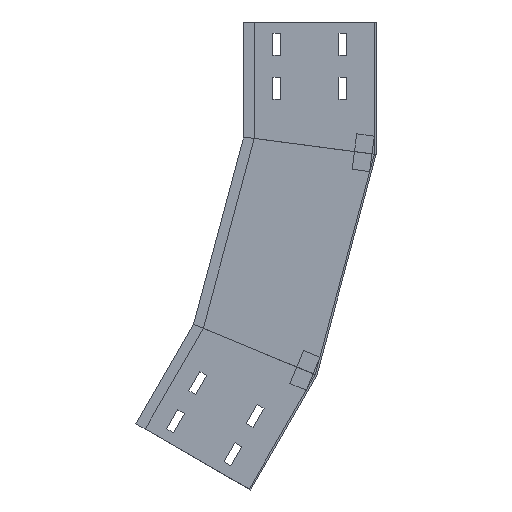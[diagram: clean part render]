
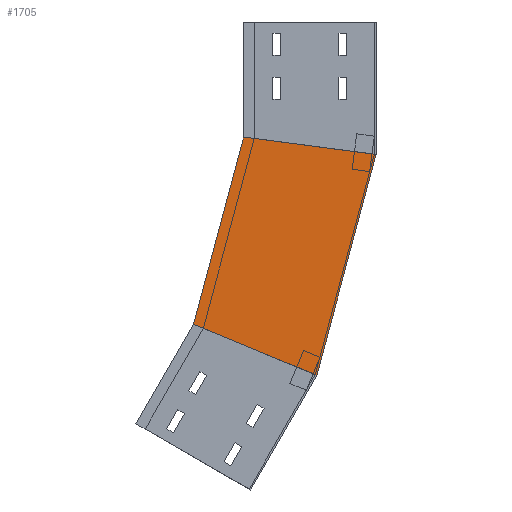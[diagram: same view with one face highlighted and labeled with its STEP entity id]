
A CAD part, left-side view. The second image highlights one B-rep face of the part: STEP entity #1705.
In plain terms, the highlighted planar face has unit normal (-1, 0, 0) as drawn and (1, 0, 0) by its records, which use the part's own axes.
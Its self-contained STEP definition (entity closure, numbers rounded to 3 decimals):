
#43 = CARTESIAN_POINT ( 'NONE',  ( 0., 150., -130.252 ) ) ;
#64 = ORIENTED_EDGE ( 'NONE', *, *, #240, .T. ) ;
#69 = EDGE_CURVE ( 'NONE', #1776, #915, #693, .T. ) ;
#125 = DIRECTION ( 'NONE',  ( 0., 0., 1. ) ) ;
#136 = PLANE ( 'NONE',  #1075 ) ;
#240 = EDGE_CURVE ( 'NONE', #1776, #1804, #318, .T. ) ;
#246 = ORIENTED_EDGE ( 'NONE', *, *, #1390, .T. ) ;
#295 = LINE ( 'NONE', #651, #1831 ) ;
#318 = LINE ( 'NONE', #1244, #993 ) ;
#337 = CARTESIAN_POINT ( 'NONE',  ( 0., 67.034, -400.175 ) ) ;
#341 = VERTEX_POINT ( 'NONE', #337 ) ;
#644 = CARTESIAN_POINT ( 'NONE',  ( 0., 98.267, -387.238 ) ) ;
#651 = CARTESIAN_POINT ( 'NONE',  ( 0., 0., -150. ) ) ;
#671 = ORIENTED_EDGE ( 'NONE', *, *, #718, .F. ) ;
#693 = LINE ( 'NONE', #1333, #1359 ) ;
#701 = CARTESIAN_POINT ( 'NONE',  ( 0., 206.812, -342.277 ) ) ;
#718 = EDGE_CURVE ( 'NONE', #915, #341, #820, .T. ) ;
#820 = LINE ( 'NONE', #644, #1827 ) ;
#910 = CARTESIAN_POINT ( 'NONE',  ( 0., 0., -150. ) ) ;
#915 = VERTEX_POINT ( 'NONE', #701 ) ;
#993 = VECTOR ( 'NONE', #1724, 1000. ) ;
#1009 = CARTESIAN_POINT ( 'NONE',  ( 0., 0., -150. ) ) ;
#1075 = AXIS2_PLACEMENT_3D ( 'NONE', #910, #1994, #125 ) ;
#1117 = ORIENTED_EDGE ( 'NONE', *, *, #69, .F. ) ;
#1150 = DIRECTION ( 'NONE',  ( 0., 0.259, -0.966 ) ) ;
#1244 = CARTESIAN_POINT ( 'NONE',  ( 0., 19.411, -147.444 ) ) ;
#1292 = DIRECTION ( 'NONE',  ( 0., -0.924, -0.383 ) ) ;
#1333 = CARTESIAN_POINT ( 'NONE',  ( 0., 144.889, -111.177 ) ) ;
#1359 = VECTOR ( 'NONE', #1515, 1000. ) ;
#1390 = EDGE_CURVE ( 'NONE', #1804, #341, #295, .T. ) ;
#1515 = DIRECTION ( 'NONE',  ( 0., 0.259, -0.966 ) ) ;
#1543 = FACE_OUTER_BOUND ( 'NONE', #2011, .T. ) ;
#1705 = ADVANCED_FACE ( 'NONE', ( #1543 ), #136, .F. ) ;
#1724 = DIRECTION ( 'NONE',  ( 0., -0.991, -0.131 ) ) ;
#1776 = VERTEX_POINT ( 'NONE', #43 ) ;
#1804 = VERTEX_POINT ( 'NONE', #1009 ) ;
#1827 = VECTOR ( 'NONE', #1292, 1000. ) ;
#1831 = VECTOR ( 'NONE', #1150, 1000. ) ;
#1994 = DIRECTION ( 'NONE',  ( -1., 0., 0. ) ) ;
#2011 = EDGE_LOOP ( 'NONE', ( #1117, #64, #246, #671 ) ) ;
